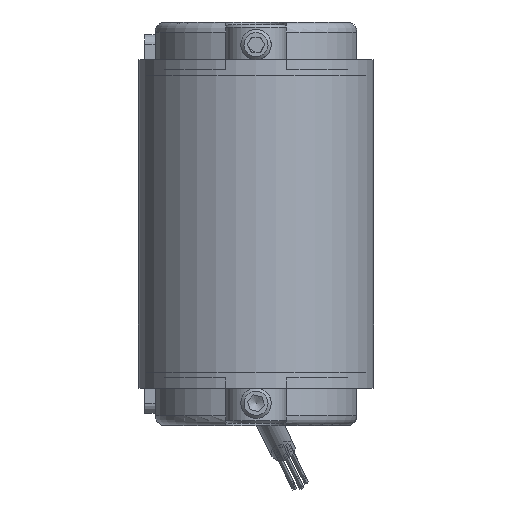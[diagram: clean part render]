
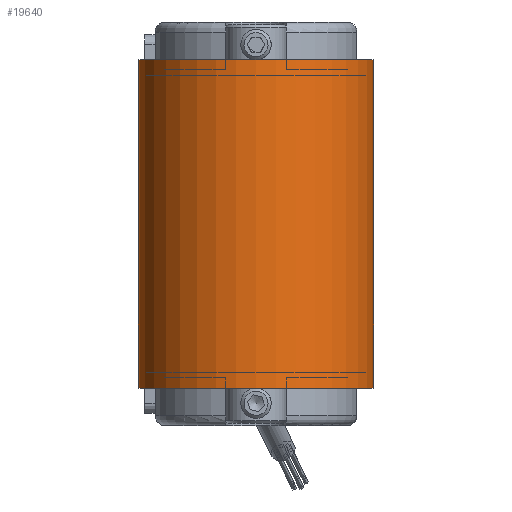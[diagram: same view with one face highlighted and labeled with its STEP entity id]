
A CAD part, front view. The second image highlights one B-rep face of the part: STEP entity #19640.
In plain terms, the highlighted cylindrical face has radius 23.3 mm (diameter 46.6 mm), a partial arc.
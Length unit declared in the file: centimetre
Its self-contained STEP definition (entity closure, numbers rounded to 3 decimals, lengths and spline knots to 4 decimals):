
#1517=FACE_OUTER_BOUND('',#2566,.T.);
#2566=EDGE_LOOP('',(#13663,#13664,#13665,#13666));
#3798=CIRCLE('',#21046,2.33);
#3801=CIRCLE('',#21052,2.33);
#4804=LINE('',#29080,#6384);
#4805=LINE('',#29084,#6385);
#6384=VECTOR('',#23858,1.);
#6385=VECTOR('',#23863,1.);
#8050=VERTEX_POINT('',#29063);
#8051=VERTEX_POINT('',#29064);
#8056=VERTEX_POINT('',#29078);
#8057=VERTEX_POINT('',#29082);
#10231=EDGE_CURVE('',#8050,#8051,#3798,.T.);
#10239=EDGE_CURVE('',#8056,#8051,#4804,.T.);
#10240=EDGE_CURVE('',#8056,#8057,#3801,.T.);
#10241=EDGE_CURVE('',#8050,#8057,#4805,.T.);
#13663=ORIENTED_EDGE('',*,*,#10240,.T.);
#13664=ORIENTED_EDGE('',*,*,#10241,.F.);
#13665=ORIENTED_EDGE('',*,*,#10231,.T.);
#13666=ORIENTED_EDGE('',*,*,#10239,.F.);
#18225=CYLINDRICAL_SURFACE('',#21051,2.33);
#19640=ADVANCED_FACE('',(#1517),#18225,.T.);
#21046=AXIS2_PLACEMENT_3D('',#29065,#23843,#23844);
#21051=AXIS2_PLACEMENT_3D('',#29081,#23859,#23860);
#21052=AXIS2_PLACEMENT_3D('',#29083,#23861,#23862);
#23843=DIRECTION('center_axis',(0.,0.,
-1.));
#23844=DIRECTION('ref_axis',(-1.,0.,0.));
#23858=DIRECTION('',(0.,0.,1.));
#23859=DIRECTION('center_axis',(0.,0.,
-1.));
#23860=DIRECTION('ref_axis',(-1.,0.,0.));
#23861=DIRECTION('center_axis',(0.,0.,
1.));
#23862=DIRECTION('ref_axis',(-1.,0.,0.));
#23863=DIRECTION('',(0.,0.,-1.));
#29063=CARTESIAN_POINT('',(2.33,-147.,3.25));
#29064=CARTESIAN_POINT('',(-2.33,-147.,3.25));
#29065=CARTESIAN_POINT('Origin',(0.,-147.,
3.25));
#29078=CARTESIAN_POINT('',(-2.33,-147.,-3.25));
#29080=CARTESIAN_POINT('',(-2.33,-147.,0.));
#29081=CARTESIAN_POINT('Origin',(0.,-147.,
0.));
#29082=CARTESIAN_POINT('',(2.33,-147.,-3.25));
#29083=CARTESIAN_POINT('Origin',(0.,-147.,
-3.25));
#29084=CARTESIAN_POINT('',(2.33,-147.,0.));
